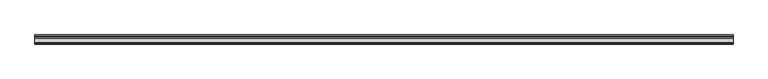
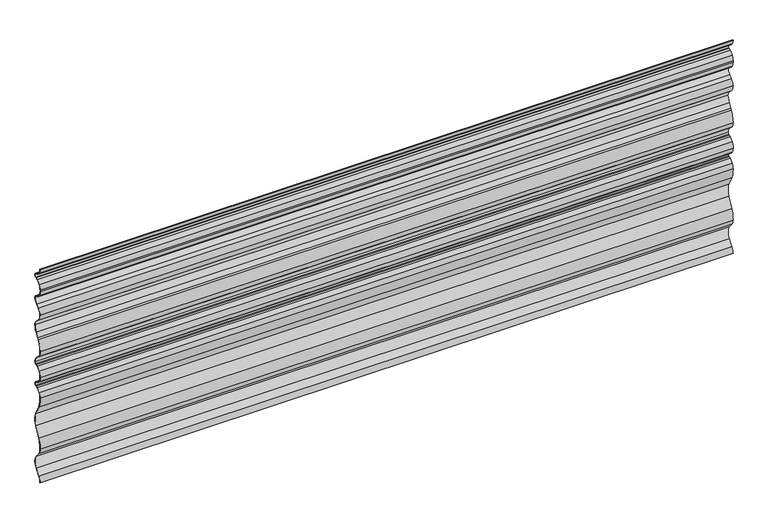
"""IFC4 building model written with IfcOpenShell, lengths in millimetres: plate geometry, Ritmica Horizontal 928 : Ritmica Horizontal 928."""

from ifc_helpers import new_model, si_unit, frame, origin, place, context, project, spatial, polyline, circle_curve, source, transform, mapped, element, save
from ifc_brep_helpers import plane_surface, cylinder_surface, revolved_surface, advanced_brep


def plate_95de40c8(model_context):
    return source(origin(), model_context, "Body", "AdvancedBrep", [
        advanced_brep(
        [(-1424.5, 6.5092615, 908.0620129), (-1424.5, 21.2621067, 895.6153968), (-1424.5, 28.45755, 892.7364297), (-1424.5, 31.9226364, 891.0770661), (-1424.5, 31.9284533, 875.0954695), (-1424.5, 28.4645758, 873.4335839), (-1424.5, 21.2712303, 870.5493796), (-1424.5, 6.5274495, 858.0920274), (-1424.5, 0.7421798, 836.9983174), (-1424.5, 0.7421798, 831.6596456), (-1424.5, 6.5447465, 810.5701527), (-1424.5, 21.2975918, 798.1235366), (-1424.5, 28.493035, 795.2445695), (-1424.5, 31.9581214, 793.5852059), (-1424.5, 36.9921573, 785.5962388), (-1424.5, 24.9656186, 760.6206134), (-1424.5, 12.9828956, 751.0704574), (-1424.5, 1.0048783, 728.5919745), (-1424.5, 13.0090533, 701.127971), (-1424.5, 24.9992939, 690.0241978), (-1424.5, 37.0440106, 665.0573339), (-1424.5, 28.6299997, 638.3240963), (-1424.5, 17.4991449, 620.9910926), (-1424.5, 13.1043036, 613.5575548), (-1424.5, 0.921776, 569.3793833), (-1424.5, 12.9259511, 541.9153798), (-1424.5, 24.9161915, 530.8116067), (-1424.5, 36.9609087, 505.8415328), (-1424.5, 31.9326896, 497.8521133), (-1424.5, 28.4688119, 496.1902275), (-1424.5, 21.2754341, 493.3060102), (-1424.5, 6.5316868, 480.8486726), (-1424.5, 0.8337564, 457.0856569), (-1424.5, 6.3430179, 437.5469103), (-1424.5, 21.0958632, 425.1002943), (-1424.5, 28.2913064, 422.2213272), (-1424.5, 31.7563928, 420.5619636), (-1424.5, 31.7622098, 404.580367), (-1424.5, 28.2983323, 402.9184814), (-1424.5, 21.1049867, 400.034277), (-1424.5, 6.361206, 387.5769248), (-1424.5, 0.8661693, 368.0341733), (-1424.5, 10.0476711, 324.2892209), (-1424.5, 30.4443377, 283.7581494), (-1424.5, 30.4639577, 229.8542794), (-1424.5, 10.0968014, 189.3083707), (-1424.5, 0.9471466, 145.5567461), (-1424.5, 9.5590077, 121.7925982), (-1424.5, 28.254799, 99.3683726), (-1424.5, 28.274038, 46.5109184), (-1424.5, 9.5945757, 23.7707747), (-1424.5, 1.0000163, 0.0), (-1424.5, 1.63e-05, 0.0), (-1424.5, 8.826039, 24.4105804), (-1424.5, 27.4885473, 47.1303588), (-1424.5, 27.4697594, 98.7483605), (-1424.5, 8.790937, 121.1522332), (-1424.5, -0.0528427, 145.5386154), (-1424.5, 9.1993025, 189.7494732), (-1424.5, 29.5703625, 230.3031531), (-1424.5, 29.5510695, 283.3086253), (-1424.5, 9.1504935, 323.8474651), (-1424.5, -0.133833, 368.0515751), (-1424.5, 5.5079347, 388.0983921), (-1424.5, 20.7330524, 400.9625361), (-1424.5, 27.895533, 403.834365), (-1424.5, 31.3296428, 405.4819688), (-1424.5, 31.3244823, 419.6600471), (-1424.5, 27.889174, 421.3051505), (-1424.5, 20.7246046, 424.1717647), (-1424.5, 5.4901265, 437.024822), (-1424.5, -0.1662181, 457.0529178), (-1424.5, 5.6750593, 481.3646468), (-1424.5, 20.9034647, 494.2342551), (-1424.5, 28.0660127, 497.1061111), (-1424.5, 31.5001226, 498.7537151), (-1424.5, 35.9609087, 505.841531), (-1424.5, 24.2645169, 530.052163), (-1424.5, 12.2464871, 541.1816709), (-1424.5, -0.0782183, 569.3680226), (-1424.5, 12.2502128, 614.0778463), (-1424.5, 16.6477304, 621.5159109), (-1424.5, 27.7982686, 638.8795656), (-1424.5, 36.04401, 665.0587755), (-1424.5, 24.3475224, 689.2648438), (-1424.5, 12.3295893, 700.3942621), (-1424.5, 0.0048783, 728.5916105), (-1424.5, 12.391292, 751.8777021), (-1424.5, 24.342358, 761.4026277), (-1424.5, 35.9921573, 785.5958749), (-1424.5, 31.5262109, 792.6832895), (-1424.5, 28.0909026, 794.3283929), (-1424.5, 20.9248539, 797.1955989), (-1424.5, 5.6893168, 810.0521734), (-1424.5, -0.2558769, 831.6592816), (-1424.5, -0.2578202, 836.9981365), (-1424.5, 5.6708241, 858.6080051), (-1424.5, 20.8992959, 871.4776387), (-1424.5, 28.0617766, 874.3494676), (-1424.5, 31.4958863, 875.9970713), (-1424.5, 31.4907258, 890.1751497), (-1424.5, 28.0554176, 891.8202531), (-1424.5, 20.8908482, 894.6868673), (-1424.5, 5.6563701, 907.5399245), (-1424.5, 0.0, 927.600395), (-1424.5, 1.0000001, 927.600395), (1424.5, 6.5092615, 908.0620129), (1424.5, 1.0000001, 927.600395), (1424.5, 0.0, 927.600395), (1424.5, 5.6563701, 907.5399245), (1424.5, 20.8908482, 894.6868673), (1424.5, 28.0554176, 891.8202531), (1424.5, 31.4907258, 890.1751497), (1424.5, 31.4958863, 875.9970713), (1424.5, 28.0617766, 874.3494676), (1424.5, 20.8992959, 871.4776387), (1424.5, 5.6708241, 858.6080051), (1424.5, -0.2578202, 836.9981365), (1424.5, -0.2578202, 831.6596456), (1424.5, 5.6893168, 810.0521734), (1424.5, 20.9248539, 797.1955989), (1424.5, 28.0909026, 794.3283929), (1424.5, 31.5262109, 792.6832895), (1424.5, 35.9921573, 785.5958749), (1424.5, 24.342358, 761.4026277), (1424.5, 12.391292, 751.8777021), (1424.5, 0.0048783, 728.5916105), (1424.5, 12.3295893, 700.3942621), (1424.5, 24.3475224, 689.2648438), (1424.5, 36.04401, 665.0587755), (1424.5, 27.7982686, 638.8795656), (1424.5, 16.6477304, 621.5159109), (1424.5, 12.2502128, 614.0778463), (1424.5, -0.0782183, 569.3680226), (1424.5, 12.2464871, 541.1816709), (1424.5, 24.2645169, 530.052163), (1424.5, 35.9609087, 505.841531), (1424.5, 31.5001226, 498.7537151), (1424.5, 28.0660127, 497.1061111), (1424.5, 20.9034647, 494.2342551), (1424.5, 5.6750593, 481.3646468), (1424.5, -0.1662181, 457.0529178), (1424.5, 5.4901265, 437.024822), (1424.5, 20.7246046, 424.1717647), (1424.5, 27.889174, 421.3051505), (1424.5, 31.3244823, 419.6600471), (1424.5, 31.3296428, 405.4819688), (1424.5, 27.895533, 403.834365), (1424.5, 20.7330524, 400.9625361), (1424.5, 5.5079347, 388.0983921), (1424.5, -0.133833, 368.0515751), (1424.5, 9.1504935, 323.8474651), (1424.5, 29.5510695, 283.3086253), (1424.5, 29.5703625, 230.3031531), (1424.5, 9.1993025, 189.7494732), (1424.5, -0.0528427, 145.5386154), (1424.5, 8.790937, 121.1522332), (1424.5, 27.4697594, 98.7483605), (1424.5, 27.4885473, 47.1303588), (1424.5, 8.826039, 24.4105804), (1424.5, 1.63e-05, 0.0), (1424.5, 1.0000163, 0.0), (1424.5, 9.5945757, 23.7707747), (1424.5, 28.274038, 46.5109184), (1424.5, 28.254799, 99.3683726), (1424.5, 9.5590077, 121.7925982), (1424.5, 0.9471466, 145.5567461), (1424.5, 10.0968014, 189.3083707), (1424.5, 30.4639577, 229.8542794), (1424.5, 30.4443377, 283.7581494), (1424.5, 10.0476711, 324.2892209), (1424.5, 0.8661693, 368.0341733), (1424.5, 6.361206, 387.5769248), (1424.5, 21.1049867, 400.034277), (1424.5, 28.2983323, 402.9184814), (1424.5, 31.7622098, 404.580367), (1424.5, 31.7563928, 420.5619636), (1424.5, 28.2913064, 422.2213272), (1424.5, 21.0958632, 425.1002943), (1424.5, 6.3430179, 437.5469103), (1424.5, 0.8337564, 457.0856569), (1424.5, 6.5316868, 480.8486726), (1424.5, 21.2754341, 493.3060102), (1424.5, 28.4688119, 496.1902275), (1424.5, 31.9326896, 497.8521133), (1424.5, 36.9609087, 505.8415328), (1424.5, 24.9161915, 530.8116067), (1424.5, 12.9259511, 541.9153798), (1424.5, 0.921776, 569.3793833), (1424.5, 13.1043036, 613.5575548), (1424.5, 17.4991449, 620.9910926), (1424.5, 28.6299997, 638.3240963), (1424.5, 37.0440106, 665.0573339), (1424.5, 24.9992939, 690.0241978), (1424.5, 13.0090533, 701.127971), (1424.5, 1.0048783, 728.5919745), (1424.5, 12.9828956, 751.0704574), (1424.5, 24.9656186, 760.6206134), (1424.5, 36.9921573, 785.5962388), (1424.5, 31.9581214, 793.5852059), (1424.5, 28.493035, 795.2445695), (1424.5, 21.2975918, 798.1235366), (1424.5, 6.5447465, 810.5701527), (1424.5, 0.744123, 831.6596456), (1424.5, 0.7421798, 836.9983174), (1424.5, 6.5274495, 858.0920274), (1424.5, 21.2712303, 870.5493796), (1424.5, 28.4645758, 873.4335839), (1424.5, 31.9284533, 875.0954695), (1424.5, 31.9226364, 891.0770661), (1424.5, 28.45755, 892.7364297), (1424.5, 21.2621067, 895.6153968)],
        [
            (0, 1, circle_curve(frame((-1424.5, 32.6219637, 924.0466233), z_axis=(1.0, 0.0, 0.0), x_axis=(0.0, 0.0, 1.0)), 30.6166783)),
            (1, 2),
            (2, 3),
            (3, 4, circle_curve(frame((-1424.5, 28.0953282, 883.0848737), z_axis=(-1.0, 0.0, 0.0), x_axis=(0.0, 0.0, 1.0)), 8.8613445)),
            (4, 5),
            (5, 6),
            (6, 7, circle_curve(frame((-1424.5, 32.651781, 842.1264302), z_axis=(1.0, 0.0, 0.0), x_axis=(0.0, 0.0, 1.0)), 30.6166783)),
            (7, 8, circle_curve(frame((-1424.5, 42.034972, 837.0133472), z_axis=(1.0, 0.0, 0.0), x_axis=(0.0, 0.0, 1.0)), 41.2927949)),
            (8, 9),
            (9, 10, circle_curve(frame((-1424.5, 42.0369151, 831.6746753), z_axis=(1.0, 0.0, 0.0), x_axis=(0.0, 0.0, 1.0)), 41.2927949)),
            (10, 11, circle_curve(frame((-1424.5, 32.8606059, 826.7955631), z_axis=(1.0, 0.0, 0.0), x_axis=(0.0, 0.0, 1.0)), 30.9158276)),
            (11, 12),
            (12, 13),
            (13, 14, circle_curve(frame((-1424.5, 28.1308133, 785.5930135), z_axis=(-1.0, 0.0, 0.0), x_axis=(0.0, 0.0, 1.0)), 8.8613445)),
            (14, 15, circle_curve(frame((-1424.5, 5.0694602, 785.5846196), z_axis=(-1.0, 0.0, 0.0), x_axis=(0.0, 0.0, 1.0)), 31.9226992)),
            (15, 16),
            (16, 17, circle_curve(frame((-1424.5, 28.0674647, 728.6018247), z_axis=(1.0, 0.0, 0.0), x_axis=(0.0, 0.0, 1.0)), 27.0625882)),
            (17, 18, circle_curve(frame((-1424.5, 38.4552002, 728.6056057), z_axis=(1.0, 0.0, 0.0), x_axis=(0.0, 0.0, 1.0)), 37.4503244)),
            (18, 19),
            (19, 20, circle_curve(frame((-1424.5, 5.1213136, 665.0457146), z_axis=(-1.0, 0.0, 0.0), x_axis=(0.0, 0.0, 1.0)), 31.9226992)),
            (20, 21, circle_curve(frame((-1424.5, -10.1198118, 665.2109304), z_axis=(-1.0, 0.0, 0.0), x_axis=(0.0, 0.0, 1.0)), 47.1640725)),
            (21, 22),
            (22, 23),
            (23, 24, circle_curve(frame((-1424.5, 80.6713796, 571.1565204), z_axis=(1.0, 0.0, 0.0), x_axis=(0.0, 0.0, 1.0)), 79.769402)),
            (24, 25, circle_curve(frame((-1424.5, 38.372098, 569.3930144), z_axis=(1.0, 0.0, 0.0), x_axis=(0.0, 0.0, 1.0)), 37.4503244)),
            (25, 26),
            (26, 27, circle_curve(frame((-1424.5, 5.0555271, 505.8414768), z_axis=(-1.0, 0.0, 0.0), x_axis=(0.0, 0.0, 1.0)), 31.9053816)),
            (27, 28, circle_curve(frame((-1424.5, 28.0995643, 505.8415173), z_axis=(-1.0, 0.0, 0.0), x_axis=(0.0, 0.0, 1.0)), 8.8613444)),
            (28, 29),
            (29, 30),
            (30, 31, circle_curve(frame((-1424.5, 32.6560172, 464.8830737), z_axis=(1.0, 0.0, 0.0), x_axis=(0.0, 0.0, 1.0)), 30.6166783)),
            (31, 32, circle_curve(frame((-1424.5, 42.0392082, 459.7699907), z_axis=(1.0, 0.0, 0.0), x_axis=(0.0, 0.0, 1.0)), 41.2927948)),
            (32, 33, circle_curve(frame((-1424.5, 38.2840783, 457.0992876), z_axis=(1.0, 0.0, 0.0), x_axis=(0.0, 0.0, 1.0)), 37.4503244)),
            (33, 34, circle_curve(frame((-1424.5, 32.4557202, 453.5315208), z_axis=(1.0, 0.0, 0.0), x_axis=(0.0, 0.0, 1.0)), 30.6166783)),
            (34, 35),
            (35, 36),
            (36, 37, circle_curve(frame((-1424.5, 27.9290847, 412.5697711), z_axis=(-1.0, 0.0, 0.0), x_axis=(0.0, 0.0, 1.0)), 8.8613445)),
            (37, 38),
            (38, 39),
            (39, 40, circle_curve(frame((-1424.5, 32.4855375, 371.6113276), z_axis=(1.0, 0.0, 0.0), x_axis=(0.0, 0.0, 1.0)), 30.6166783)),
            (40, 41, circle_curve(frame((-1424.5, 38.3164913, 368.0478045), z_axis=(1.0, 0.0, 0.0), x_axis=(0.0, 0.0, 1.0)), 37.4503244)),
            (41, 42, circle_curve(frame((-1424.5, 94.1023268, 364.7672254), z_axis=(1.0, 0.0, 0.0), x_axis=(0.0, 0.0, 1.0)), 93.293376)),
            (42, 43),
            (43, 44, circle_curve(frame((-1424.5, -23.1517542, 256.7867029), z_axis=(-1.0, 0.0, 0.0), x_axis=(0.0, 0.0, 1.0)), 60.0)),
            (44, 45),
            (45, 46, circle_curve(frame((-1424.5, 94.1809012, 148.8915653), z_axis=(1.0, 0.0, 0.0), x_axis=(0.0, 0.0, 1.0)), 93.293376)),
            (46, 47, circle_curve(frame((-1424.5, 38.0785645, 145.5702612), z_axis=(1.0, 0.0, 0.0), x_axis=(0.0, 0.0, 1.0)), 37.1314203)),
            (47, 48),
            (48, 49, circle_curve(frame((-1424.5, -7.0897542, 72.9267773), z_axis=(-1.0, 0.0, 0.0), x_axis=(0.0, 0.0, 1.0)), 44.1406321)),
            (49, 50),
            (50, 51, circle_curve(frame((-1424.5, 38.131434, 0.0138791), z_axis=(1.0, 0.0, 0.0), x_axis=(0.0, 0.0, 1.0)), 37.1314203)),
            (51, 52),
            (52, 53, circle_curve(frame((-1424.5, 38.131434, 0.0138791), z_axis=(-1.0, 0.0, 0.0), x_axis=(0.0, 0.0, 1.0)), 38.1314203)),
            (53, 54),
            (54, 55, circle_curve(frame((-1424.5, -7.0897542, 72.9267773), z_axis=(1.0, 0.0, 0.0), x_axis=(0.0, 0.0, 1.0)), 43.1406321)),
            (55, 56),
            (56, 57, circle_curve(frame((-1424.5, 38.0785645, 145.5702612), z_axis=(-1.0, 0.0, 0.0), x_axis=(0.0, 0.0, 1.0)), 38.1314203)),
            (57, 58, circle_curve(frame((-1424.5, 94.1809012, 148.8915653), z_axis=(-1.0, 0.0, 0.0), x_axis=(0.0, 0.0, 1.0)), 94.293376)),
            (58, 59),
            (59, 60, circle_curve(frame((-1424.5, -23.1517542, 256.7867029), z_axis=(1.0, 0.0, 0.0), x_axis=(0.0, 0.0, 1.0)), 59.0)),
            (60, 61),
            (61, 62, circle_curve(frame((-1424.5, 94.1023268, 364.7672254), z_axis=(-1.0, 0.0, 0.0), x_axis=(0.0, 0.0, 1.0)), 94.293376)),
            (62, 63, circle_curve(frame((-1424.5, 38.3164913, 368.0478045), z_axis=(-1.0, 0.0, 0.0), x_axis=(0.0, 0.0, 1.0)), 38.4503244)),
            (63, 64, circle_curve(frame((-1424.5, 32.4855375, 371.6113276), z_axis=(-1.0, 0.0, 0.0), x_axis=(0.0, 0.0, 1.0)), 31.6166783)),
            (64, 65),
            (65, 66),
            (66, 67, circle_curve(frame((-1424.5, 27.9290847, 412.5697711), z_axis=(1.0, 0.0, 0.0), x_axis=(0.0, 0.0, 1.0)), 7.8613445)),
            (67, 68),
            (68, 69),
            (69, 70, circle_curve(frame((-1424.5, 32.4557202, 453.5315208), z_axis=(-1.0, 0.0, 0.0), x_axis=(0.0, 0.0, 1.0)), 31.6166783)),
            (70, 71, circle_curve(frame((-1424.5, 38.2840783, 457.0992876), z_axis=(-1.0, 0.0, 0.0), x_axis=(0.0, 0.0, 1.0)), 38.4503244)),
            (71, 72, circle_curve(frame((-1424.5, 42.0392082, 459.7699907), z_axis=(-1.0, 0.0, 0.0), x_axis=(0.0, 0.0, 1.0)), 42.2927948)),
            (72, 73, circle_curve(frame((-1424.5, 32.6560172, 464.8830737), z_axis=(-1.0, 0.0, 0.0), x_axis=(0.0, 0.0, 1.0)), 31.6166782)),
            (73, 74),
            (74, 75),
            (75, 76, circle_curve(frame((-1424.5, 28.0995643, 505.8415173), z_axis=(1.0, 0.0, 0.0), x_axis=(0.0, 0.0, 1.0)), 7.8613444)),
            (76, 77, circle_curve(frame((-1424.5, 5.0555271, 505.8414768), z_axis=(1.0, 0.0, 0.0), x_axis=(0.0, 0.0, 1.0)), 30.9053816)),
            (77, 78),
            (78, 79, circle_curve(frame((-1424.5, 38.372098, 569.3930144), z_axis=(-1.0, 0.0, 0.0), x_axis=(0.0, 0.0, 1.0)), 38.4503244)),
            (79, 80, circle_curve(frame((-1424.5, 80.6713796, 571.1565204), z_axis=(-1.0, 0.0, 0.0), x_axis=(0.0, 0.0, 1.0)), 80.769402)),
            (80, 81),
            (81, 82),
            (82, 83, circle_curve(frame((-1424.5, -10.1198118, 665.2109304), z_axis=(1.0, 0.0, 0.0), x_axis=(0.0, 0.0, 1.0)), 46.1640725)),
            (83, 84, circle_curve(frame((-1424.5, 5.1213136, 665.0457146), z_axis=(1.0, 0.0, 0.0), x_axis=(0.0, 0.0, 1.0)), 30.9226992)),
            (84, 85),
            (85, 86, circle_curve(frame((-1424.5, 38.4552002, 728.6056057), z_axis=(-1.0, 0.0, 0.0), x_axis=(0.0, 0.0, 1.0)), 38.4503244)),
            (86, 87, circle_curve(frame((-1424.5, 28.0674647, 728.6018247), z_axis=(-1.0, 0.0, 0.0), x_axis=(0.0, 0.0, 1.0)), 28.0625882)),
            (87, 88),
            (88, 89, circle_curve(frame((-1424.5, 5.0694602, 785.5846196), z_axis=(1.0, 0.0, 0.0), x_axis=(0.0, 0.0, 1.0)), 30.9226992)),
            (89, 90, circle_curve(frame((-1424.5, 28.1308133, 785.5930135), z_axis=(1.0, 0.0, 0.0), x_axis=(0.0, 0.0, 1.0)), 7.8613445)),
            (90, 91),
            (91, 92),
            (92, 93, circle_curve(frame((-1424.5, 32.8606059, 826.7955631), z_axis=(-1.0, 0.0, 0.0), x_axis=(0.0, 0.0, 1.0)), 31.9158276)),
            (93, 94, circle_curve(frame((-1424.5, 42.0369151, 831.6746753), z_axis=(-1.0, 0.0, 0.0), x_axis=(0.0, 0.0, 1.0)), 42.2927949)),
            (94, 95),
            (95, 96, circle_curve(frame((-1424.5, 42.034972, 837.0133472), z_axis=(-1.0, 0.0, 0.0), x_axis=(0.0, 0.0, 1.0)), 42.2927949)),
            (96, 97, circle_curve(frame((-1424.5, 32.651781, 842.1264302), z_axis=(-1.0, 0.0, 0.0), x_axis=(0.0, 0.0, 1.0)), 31.6166783)),
            (97, 98),
            (98, 99),
            (99, 100, circle_curve(frame((-1424.5, 28.0953282, 883.0848737), z_axis=(1.0, 0.0, 0.0), x_axis=(0.0, 0.0, 1.0)), 7.8613445)),
            (100, 101),
            (101, 102),
            (102, 103, circle_curve(frame((-1424.5, 32.6219637, 924.0466233), z_axis=(-1.0, 0.0, 0.0), x_axis=(0.0, 0.0, 1.0)), 31.6166783)),
            (103, 104, circle_curve(frame((-1424.5, 38.4503219, 927.6143902), z_axis=(-1.0, 0.0, 0.0), x_axis=(0.0, 0.0, 1.0)), 38.4503244)),
            (104, 105),
            (105, 0, circle_curve(frame((-1424.5, 38.4503219, 927.6143902), z_axis=(1.0, 0.0, 0.0), x_axis=(0.0, 0.0, 1.0)), 37.4503244)),
            (106, 107, circle_curve(frame((1424.5, 38.4503219, 927.6143902), z_axis=(-1.0, 0.0, 0.0), x_axis=(0.0, 0.0, 1.0)), 37.4503244)),
            (107, 108),
            (108, 109, circle_curve(frame((1424.5, 38.4503219, 927.6143902), z_axis=(1.0, 0.0, 0.0), x_axis=(0.0, 0.0, 1.0)), 38.4503244)),
            (109, 110, circle_curve(frame((1424.5, 32.6219637, 924.0466233), z_axis=(1.0, 0.0, 0.0), x_axis=(0.0, 0.0, 1.0)), 31.6166783)),
            (110, 111),
            (111, 112),
            (112, 113, circle_curve(frame((1424.5, 28.0953282, 883.0848737), z_axis=(-1.0, 0.0, 0.0), x_axis=(0.0, 0.0, 1.0)), 7.8613445)),
            (113, 114),
            (114, 115),
            (115, 116, circle_curve(frame((1424.5, 32.651781, 842.1264302), z_axis=(1.0, 0.0, 0.0), x_axis=(0.0, 0.0, 1.0)), 31.6166783)),
            (116, 117, circle_curve(frame((1424.5, 42.034972, 837.0133472), z_axis=(1.0, 0.0, 0.0), x_axis=(0.0, 0.0, 1.0)), 42.2927949)),
            (117, 118),
            (118, 119, circle_curve(frame((1424.5, 42.0369151, 831.6746753), z_axis=(1.0, 0.0, 0.0), x_axis=(0.0, 0.0, 1.0)), 42.2927949)),
            (119, 120, circle_curve(frame((1424.5, 32.8606059, 826.7955631), z_axis=(1.0, 0.0, 0.0), x_axis=(0.0, 0.0, 1.0)), 31.9158276)),
            (120, 121),
            (121, 122),
            (122, 123, circle_curve(frame((1424.5, 28.1308133, 785.5930135), z_axis=(-1.0, 0.0, 0.0), x_axis=(0.0, 0.0, 1.0)), 7.8613445)),
            (123, 124, circle_curve(frame((1424.5, 5.0694602, 785.5846196), z_axis=(-1.0, 0.0, 0.0), x_axis=(0.0, 0.0, 1.0)), 30.9226992)),
            (124, 125),
            (125, 126, circle_curve(frame((1424.5, 28.0674647, 728.6018247), z_axis=(1.0, 0.0, 0.0), x_axis=(0.0, 0.0, 1.0)), 28.0625882)),
            (126, 127, circle_curve(frame((1424.5, 38.4552002, 728.6056057), z_axis=(1.0, 0.0, 0.0), x_axis=(0.0, 0.0, 1.0)), 38.4503244)),
            (127, 128),
            (128, 129, circle_curve(frame((1424.5, 5.1213136, 665.0457146), z_axis=(-1.0, 0.0, 0.0), x_axis=(0.0, 0.0, 1.0)), 30.9226992)),
            (129, 130, circle_curve(frame((1424.5, -10.1198118, 665.2109304), z_axis=(-1.0, 0.0, 0.0), x_axis=(0.0, 0.0, 1.0)), 46.1640725)),
            (130, 131),
            (131, 132),
            (132, 133, circle_curve(frame((1424.5, 80.6713796, 571.1565204), z_axis=(1.0, 0.0, 0.0), x_axis=(0.0, 0.0, 1.0)), 80.769402)),
            (133, 134, circle_curve(frame((1424.5, 38.372098, 569.3930144), z_axis=(1.0, 0.0, 0.0), x_axis=(0.0, 0.0, 1.0)), 38.4503244)),
            (134, 135),
            (135, 136, circle_curve(frame((1424.5, 5.0555271, 505.8414768), z_axis=(-1.0, 0.0, 0.0), x_axis=(0.0, 0.0, 1.0)), 30.9053816)),
            (136, 137, circle_curve(frame((1424.5, 28.0995643, 505.8415173), z_axis=(-1.0, 0.0, 0.0), x_axis=(0.0, 0.0, 1.0)), 7.8613444)),
            (137, 138),
            (138, 139),
            (139, 140, circle_curve(frame((1424.5, 32.6560172, 464.8830737), z_axis=(1.0, 0.0, 0.0), x_axis=(0.0, 0.0, 1.0)), 31.6166782)),
            (140, 141, circle_curve(frame((1424.5, 42.0392082, 459.7699907), z_axis=(1.0, 0.0, 0.0), x_axis=(0.0, 0.0, 1.0)), 42.2927948)),
            (141, 142, circle_curve(frame((1424.5, 38.2840783, 457.0992876), z_axis=(1.0, 0.0, 0.0), x_axis=(0.0, 0.0, 1.0)), 38.4503244)),
            (142, 143, circle_curve(frame((1424.5, 32.4557202, 453.5315208), z_axis=(1.0, 0.0, 0.0), x_axis=(0.0, 0.0, 1.0)), 31.6166783)),
            (143, 144),
            (144, 145),
            (145, 146, circle_curve(frame((1424.5, 27.9290847, 412.5697711), z_axis=(-1.0, 0.0, 0.0), x_axis=(0.0, 0.0, 1.0)), 7.8613445)),
            (146, 147),
            (147, 148),
            (148, 149, circle_curve(frame((1424.5, 32.4855375, 371.6113276), z_axis=(1.0, 0.0, 0.0), x_axis=(0.0, 0.0, 1.0)), 31.6166783)),
            (149, 150, circle_curve(frame((1424.5, 38.3164913, 368.0478045), z_axis=(1.0, 0.0, 0.0), x_axis=(0.0, 0.0, 1.0)), 38.4503244)),
            (150, 151, circle_curve(frame((1424.5, 94.1023268, 364.7672254), z_axis=(1.0, 0.0, 0.0), x_axis=(0.0, 0.0, 1.0)), 94.293376)),
            (151, 152),
            (152, 153, circle_curve(frame((1424.5, -23.1517542, 256.7867029), z_axis=(-1.0, 0.0, 0.0), x_axis=(0.0, 0.0, 1.0)), 59.0)),
            (153, 154),
            (154, 155, circle_curve(frame((1424.5, 94.1809012, 148.8915653), z_axis=(1.0, 0.0, 0.0), x_axis=(0.0, 0.0, 1.0)), 94.293376)),
            (155, 156, circle_curve(frame((1424.5, 38.0785645, 145.5702612), z_axis=(1.0, 0.0, 0.0), x_axis=(0.0, 0.0, 1.0)), 38.1314203)),
            (156, 157),
            (157, 158, circle_curve(frame((1424.5, -7.0897542, 72.9267773), z_axis=(-1.0, 0.0, 0.0), x_axis=(0.0, 0.0, 1.0)), 43.1406321)),
            (158, 159),
            (159, 160, circle_curve(frame((1424.5, 38.131434, 0.0138791), z_axis=(1.0, 0.0, 0.0), x_axis=(0.0, 0.0, 1.0)), 38.1314203)),
            (160, 161),
            (161, 162, circle_curve(frame((1424.5, 38.131434, 0.0138791), z_axis=(-1.0, 0.0, 0.0), x_axis=(0.0, 0.0, 1.0)), 37.1314203)),
            (162, 163),
            (163, 164, circle_curve(frame((1424.5, -7.0897542, 72.9267773), z_axis=(1.0, 0.0, 0.0), x_axis=(0.0, 0.0, 1.0)), 44.1406321)),
            (164, 165),
            (165, 166, circle_curve(frame((1424.5, 38.0785645, 145.5702612), z_axis=(-1.0, 0.0, 0.0), x_axis=(0.0, 0.0, 1.0)), 37.1314203)),
            (166, 167, circle_curve(frame((1424.5, 94.1809012, 148.8915653), z_axis=(-1.0, 0.0, 0.0), x_axis=(0.0, 0.0, 1.0)), 93.293376)),
            (167, 168),
            (168, 169, circle_curve(frame((1424.5, -23.1517542, 256.7867029), z_axis=(1.0, 0.0, 0.0), x_axis=(0.0, 0.0, 1.0)), 60.0)),
            (169, 170),
            (170, 171, circle_curve(frame((1424.5, 94.1023268, 364.7672254), z_axis=(-1.0, 0.0, 0.0), x_axis=(0.0, 0.0, 1.0)), 93.293376)),
            (171, 172, circle_curve(frame((1424.5, 38.3164913, 368.0478045), z_axis=(-1.0, 0.0, 0.0), x_axis=(0.0, 0.0, 1.0)), 37.4503244)),
            (172, 173, circle_curve(frame((1424.5, 32.4855375, 371.6113276), z_axis=(-1.0, 0.0, 0.0), x_axis=(0.0, 0.0, 1.0)), 30.6166783)),
            (173, 174),
            (174, 175),
            (175, 176, circle_curve(frame((1424.5, 27.9290847, 412.5697711), z_axis=(1.0, 0.0, 0.0), x_axis=(0.0, 0.0, 1.0)), 8.8613445)),
            (176, 177),
            (177, 178),
            (178, 179, circle_curve(frame((1424.5, 32.4557202, 453.5315208), z_axis=(-1.0, 0.0, 0.0), x_axis=(0.0, 0.0, 1.0)), 30.6166783)),
            (179, 180, circle_curve(frame((1424.5, 38.2840783, 457.0992876), z_axis=(-1.0, 0.0, 0.0), x_axis=(0.0, 0.0, 1.0)), 37.4503244)),
            (180, 181, circle_curve(frame((1424.5, 42.0392082, 459.7699907), z_axis=(-1.0, 0.0, 0.0), x_axis=(0.0, 0.0, 1.0)), 41.2927948)),
            (181, 182, circle_curve(frame((1424.5, 32.6560172, 464.8830737), z_axis=(-1.0, 0.0, 0.0), x_axis=(0.0, 0.0, 1.0)), 30.6166783)),
            (182, 183),
            (183, 184),
            (184, 185, circle_curve(frame((1424.5, 28.0995643, 505.8415173), z_axis=(1.0, 0.0, 0.0), x_axis=(0.0, 0.0, 1.0)), 8.8613444)),
            (185, 186, circle_curve(frame((1424.5, 5.0555271, 505.8414768), z_axis=(1.0, 0.0, 0.0), x_axis=(0.0, 0.0, 1.0)), 31.9053816)),
            (186, 187),
            (187, 188, circle_curve(frame((1424.5, 38.372098, 569.3930144), z_axis=(-1.0, 0.0, 0.0), x_axis=(0.0, 0.0, 1.0)), 37.4503244)),
            (188, 189, circle_curve(frame((1424.5, 80.6713796, 571.1565204), z_axis=(-1.0, 0.0, 0.0), x_axis=(0.0, 0.0, 1.0)), 79.769402)),
            (189, 190),
            (190, 191),
            (191, 192, circle_curve(frame((1424.5, -10.1198118, 665.2109304), z_axis=(1.0, 0.0, 0.0), x_axis=(0.0, 0.0, 1.0)), 47.1640725)),
            (192, 193, circle_curve(frame((1424.5, 5.1213136, 665.0457146), z_axis=(1.0, 0.0, 0.0), x_axis=(0.0, 0.0, 1.0)), 31.9226992)),
            (193, 194),
            (194, 195, circle_curve(frame((1424.5, 38.4552002, 728.6056057), z_axis=(-1.0, 0.0, 0.0), x_axis=(0.0, 0.0, 1.0)), 37.4503244)),
            (195, 196, circle_curve(frame((1424.5, 28.0674647, 728.6018247), z_axis=(-1.0, 0.0, 0.0), x_axis=(0.0, 0.0, 1.0)), 27.0625882)),
            (196, 197),
            (197, 198, circle_curve(frame((1424.5, 5.0694602, 785.5846196), z_axis=(1.0, 0.0, 0.0), x_axis=(0.0, 0.0, 1.0)), 31.9226992)),
            (198, 199, circle_curve(frame((1424.5, 28.1308133, 785.5930135), z_axis=(1.0, 0.0, 0.0), x_axis=(0.0, 0.0, 1.0)), 8.8613445)),
            (199, 200),
            (200, 201),
            (201, 202, circle_curve(frame((1424.5, 32.8606059, 826.7955631), z_axis=(-1.0, 0.0, 0.0), x_axis=(0.0, 0.0, 1.0)), 30.9158276)),
            (202, 203, circle_curve(frame((1424.5, 42.0369151, 831.6746753), z_axis=(-1.0, 0.0, 0.0), x_axis=(0.0, 0.0, 1.0)), 41.2927949)),
            (203, 204),
            (204, 205, circle_curve(frame((1424.5, 42.034972, 837.0133472), z_axis=(-1.0, 0.0, 0.0), x_axis=(0.0, 0.0, 1.0)), 41.2927949)),
            (205, 206, circle_curve(frame((1424.5, 32.651781, 842.1264302), z_axis=(-1.0, 0.0, 0.0), x_axis=(0.0, 0.0, 1.0)), 30.6166783)),
            (206, 207),
            (207, 208),
            (208, 209, circle_curve(frame((1424.5, 28.0953282, 883.0848737), z_axis=(1.0, 0.0, 0.0), x_axis=(0.0, 0.0, 1.0)), 8.8613445)),
            (209, 210),
            (210, 211),
            (211, 106, circle_curve(frame((1424.5, 32.6219637, 924.0466233), z_axis=(-1.0, 0.0, 0.0), x_axis=(0.0, 0.0, 1.0)), 30.6166783)),
            (0, 106),
            (211, 1),
            (210, 2),
            (209, 3),
            (208, 4),
            (207, 5),
            (206, 6),
            (205, 7),
            (204, 8),
            (203, 9),
            (202, 10),
            (201, 11),
            (200, 12),
            (199, 13),
            (198, 14),
            (197, 15),
            (196, 16),
            (195, 17),
            (194, 18),
            (193, 19),
            (192, 20),
            (191, 21),
            (190, 22),
            (189, 23),
            (188, 24),
            (187, 25),
            (186, 26),
            (185, 27),
            (184, 28),
            (183, 29),
            (182, 30),
            (181, 31),
            (180, 32),
            (179, 33),
            (178, 34),
            (177, 35),
            (176, 36),
            (175, 37),
            (174, 38),
            (173, 39),
            (172, 40),
            (171, 41),
            (170, 42),
            (169, 43),
            (168, 44),
            (167, 45),
            (166, 46),
            (165, 47),
            (164, 48),
            (163, 49),
            (162, 50),
            (161, 51),
            (160, 52),
            (159, 53),
            (158, 54),
            (157, 55),
            (156, 56),
            (155, 57),
            (154, 58),
            (153, 59),
            (152, 60),
            (151, 61),
            (150, 62),
            (149, 63),
            (148, 64),
            (147, 65),
            (146, 66),
            (145, 67),
            (144, 68),
            (143, 69),
            (142, 70),
            (141, 71),
            (140, 72),
            (139, 73),
            (138, 74),
            (137, 75),
            (136, 76),
            (135, 77),
            (134, 78),
            (133, 79),
            (132, 80),
            (131, 81),
            (130, 82),
            (129, 83),
            (128, 84),
            (127, 85),
            (126, 86),
            (125, 87),
            (124, 88),
            (123, 89),
            (122, 90),
            (121, 91),
            (120, 92),
            (119, 93),
            (118, 94),
            (117, 95),
            (116, 96),
            (115, 97),
            (114, 98),
            (113, 99),
            (112, 100),
            (111, 101),
            (110, 102),
            (109, 103),
            (108, 104),
            (107, 105),
        ],
        [
            plane_surface(frame((-1424.5, 32.6219637, 954.6633016), z_axis=(-1.0, 0.0, 0.0), x_axis=(0.0, -1.0, 0.0))),
            plane_surface(frame((1424.5, 32.6219637, 954.6633016), z_axis=(1.0, 0.0, 0.0), x_axis=(0.0, 1.0, 0.0))),
            revolved_surface(polyline([(1424.5, 32.6219637, 954.6633016), (-1424.5, 32.6219637, 954.6633016)]), (1424.5, 32.6219637, 924.0466233), (1.0, 0.0, 0.0)),
            plane_surface(frame((-1424.5, 21.2621067, 895.6153968), z_axis=(0.0, 0.3714785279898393, 0.9284415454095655), x_axis=(1.0, 0.0, 0.0))),
            plane_surface(frame((-1424.5, 28.45755, 892.7364297), z_axis=(0.0, 0.43191054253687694, 0.9019164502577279), x_axis=(1.0, 0.0, 0.0))),
            cylinder_surface(frame((1424.5, 28.0953282, 883.0848737), z_axis=(-1.0, 0.0, 0.0), x_axis=(0.0, 0.0, 1.0)), 8.8613445),
            plane_surface(frame((-1424.5, 31.9284533, 875.0954695), z_axis=(0.0, 0.43256698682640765, -0.9016017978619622), x_axis=(1.0, 0.0, 0.0))),
            plane_surface(frame((-1424.5, 28.4645758, 873.4335839), z_axis=(0.0, 0.3721542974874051, -0.928170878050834), x_axis=(1.0, 0.0, 0.0))),
            revolved_surface(polyline([(1424.5, 32.651781, 872.7431085), (-1424.5, 32.651781, 872.7431085)]), (1424.5, 32.651781, 842.1264302), (1.0, 0.0, 0.0)),
            revolved_surface(polyline([(1424.5, 42.034972, 878.3061421), (-1424.5, 42.034972, 878.3061421)]), (1424.5, 42.034972, 837.0133472), (1.0, 0.0, 0.0)),
            plane_surface(frame((-1424.5, 0.7421798, 836.9983174), z_axis=(0.0, 1.0, 0.0), x_axis=(1.0, 0.0, 0.0))),
            revolved_surface(polyline([(1424.5, 42.0369151, 872.9674702), (-1424.5, 42.0369151, 872.9674702)]), (1424.5, 42.0369151, 831.6746753), (1.0, 0.0, 0.0)),
            revolved_surface(polyline([(1424.5, 32.8606059, 857.7113907), (-1424.5, 32.8606059, 857.7113907)]), (1424.5, 32.8606059, 826.7955631), (1.0, 0.0, 0.0)),
            plane_surface(frame((-1424.5, 21.2975918, 798.1235366), z_axis=(0.0, 0.3714785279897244, 0.9284415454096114), x_axis=(1.0, 0.0, 0.0))),
            plane_surface(frame((-1424.5, 28.493035, 795.2445695), z_axis=(0.0, 0.4319105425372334, 0.9019164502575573), x_axis=(1.0, 0.0, 0.0))),
            cylinder_surface(frame((1424.5, 28.1308133, 785.5930135), z_axis=(-1.0, 0.0, 0.0), x_axis=(0.0, 0.0, 1.0)), 8.8613445),
            cylinder_surface(frame((1424.5, 5.0694602, 785.5846196), z_axis=(-1.0, 0.0, 0.0), x_axis=(0.0, 0.0, 1.0)), 31.9226992),
            plane_surface(frame((-1424.5, 24.9656186, 760.6206134), z_axis=(0.0, 0.6232605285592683, -0.7820142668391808), x_axis=(1.0, 0.0, 0.0))),
            revolved_surface(polyline([(1424.5, 28.0674647, 755.6644129), (-1424.5, 28.0674647, 755.6644129)]), (1424.5, 28.0674647, 728.6018247), (1.0, 0.0, 0.0)),
            revolved_surface(polyline([(1424.5, 38.4552002, 766.0559301), (-1424.5, 38.4552002, 766.0559301)]), (1424.5, 38.4552002, 728.6056057), (1.0, 0.0, 0.0)),
            plane_surface(frame((-1424.5, 13.0090533, 701.127971), z_axis=(0.0, 0.6794639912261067, 0.7337088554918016), x_axis=(1.0, 0.0, 0.0))),
            cylinder_surface(frame((1424.5, 5.1213136, 665.0457146), z_axis=(-1.0, 0.0, 0.0), x_axis=(0.0, 0.0, 1.0)), 31.9226992),
            cylinder_surface(frame((1424.5, -10.1198118, 665.2109304), z_axis=(-1.0, 0.0, 0.0), x_axis=(0.0, 0.0, 1.0)), 47.1640725),
            plane_surface(frame((-1424.5, 28.6299997, 638.3240963), z_axis=(0.0, 0.8414387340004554, -0.5403525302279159), x_axis=(1.0, 0.0, 0.0))),
            plane_surface(frame((-1424.5, 17.4991449, 620.9910926), z_axis=(0.0, 0.8608100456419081, -0.5089263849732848), x_axis=(1.0, 0.0, 0.0))),
            revolved_surface(polyline([(1424.5, 80.6713796, 650.9259224), (-1424.5, 80.6713796, 650.9259224)]), (1424.5, 80.6713796, 571.1565204), (1.0, 0.0, 0.0)),
            revolved_surface(polyline([(1424.5, 38.372098, 606.8433388), (-1424.5, 38.372098, 606.8433388)]), (1424.5, 38.372098, 569.3930144), (1.0, 0.0, 0.0)),
            plane_surface(frame((-1424.5, 12.9259511, 541.9153798), z_axis=(0.0, 0.6794639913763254, 0.7337088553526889), x_axis=(1.0, 0.0, 0.0))),
            cylinder_surface(frame((1424.5, 5.0555271, 505.8414768), z_axis=(-1.0, 0.0, 0.0), x_axis=(0.0, 0.0, 1.0)), 31.9053816),
            cylinder_surface(frame((1424.5, 28.0995643, 505.8415173), z_axis=(-1.0, 0.0, 0.0), x_axis=(0.0, 0.0, 1.0)), 8.8613444),
            plane_surface(frame((-1424.5, 31.9326896, 497.8521133), z_axis=(0.0, 0.43256701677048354, -0.9016017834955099), x_axis=(1.0, 0.0, 0.0))),
            plane_surface(frame((-1424.5, 28.4688119, 496.1902275), z_axis=(0.0, 0.37215430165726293, -0.9281708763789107), x_axis=(1.0, 0.0, 0.0))),
            revolved_surface(polyline([(1424.5, 32.6560172, 495.499752), (-1424.5, 32.6560172, 495.499752)]), (1424.5, 32.6560172, 464.8830737), (1.0, 0.0, 0.0)),
            revolved_surface(polyline([(1424.5, 42.0392082, 501.0627855), (-1424.5, 42.0392082, 501.0627855)]), (1424.5, 42.0392082, 459.7699907), (1.0, 0.0, 0.0)),
            revolved_surface(polyline([(1424.5, 38.2840783, 494.549612), (-1424.5, 38.2840783, 494.549612)]), (1424.5, 38.2840783, 457.0992876), (1.0, 0.0, 0.0)),
            revolved_surface(polyline([(1424.5, 32.4557202, 484.1481991), (-1424.5, 32.4557202, 484.1481991)]), (1424.5, 32.4557202, 453.5315208), (1.0, 0.0, 0.0)),
            plane_surface(frame((-1424.5, 21.0958632, 425.1002943), z_axis=(0.0, 0.3714785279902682, 0.9284415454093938), x_axis=(1.0, 0.0, 0.0))),
            plane_surface(frame((-1424.5, 28.2913064, 422.2213272), z_axis=(0.0, 0.43191054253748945, 0.9019164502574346), x_axis=(1.0, 0.0, 0.0))),
            cylinder_surface(frame((1424.5, 27.9290847, 412.5697711), z_axis=(-1.0, 0.0, 0.0), x_axis=(0.0, 0.0, 1.0)), 8.8613445),
            plane_surface(frame((-1424.5, 31.7622098, 404.580367), z_axis=(0.0, 0.432566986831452, -0.901601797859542), x_axis=(1.0, 0.0, 0.0))),
            plane_surface(frame((-1424.5, 28.2983323, 402.9184814), z_axis=(0.0, 0.3721542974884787, -0.9281708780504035), x_axis=(1.0, 0.0, 0.0))),
            revolved_surface(polyline([(1424.5, 32.4855375, 402.22800589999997), (-1424.5, 32.4855375, 402.22800589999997)]), (1424.5, 32.4855375, 371.6113276), (1.0, 0.0, 0.0)),
            revolved_surface(polyline([(1424.5, 38.3164913, 405.4981289), (-1424.5, 38.3164913, 405.4981289)]), (1424.5, 38.3164913, 368.0478045), (1.0, 0.0, 0.0)),
            revolved_surface(polyline([(1424.5, 94.1023268, 458.0606014), (-1424.5, 94.1023268, 458.0606014)]), (1424.5, 94.1023268, 364.7672254), (1.0, 0.0, 0.0)),
            plane_surface(frame((-1424.5, 10.0476711, 324.2892209), z_axis=(0.0, 0.8932681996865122, 0.4495241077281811), x_axis=(1.0, 0.0, 0.0))),
            cylinder_surface(frame((1424.5, -23.1517542, 256.7867029), z_axis=(-1.0, 0.0, 0.0), x_axis=(0.0, 0.0, 1.0)), 60.0),
            plane_surface(frame((-1424.5, 30.4639577, 229.8542794), z_axis=(0.0, 0.8935951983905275, -0.44887372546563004), x_axis=(1.0, 0.0, 0.0))),
            revolved_surface(polyline([(1424.5, 94.1809012, 242.1849413), (-1424.5, 94.1809012, 242.1849413)]), (1424.5, 94.1809012, 148.8915653), (1.0, 0.0, 0.0)),
            revolved_surface(polyline([(1424.5, 38.0785645, 182.7016815), (-1424.5, 38.0785645, 182.7016815)]), (1424.5, 38.0785645, 145.5702612), (1.0, 0.0, 0.0)),
            plane_surface(frame((-1424.5, 9.5590077, 121.7925982), z_axis=(0.0, 0.768070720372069, 0.640365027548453), x_axis=(1.0, 0.0, 0.0))),
            cylinder_surface(frame((1424.5, -7.0897542, 72.9267773), z_axis=(-1.0, 0.0, 0.0), x_axis=(0.0, 0.0, 1.0)), 44.1406321),
            plane_surface(frame((-1424.5, 28.274038, 46.5109184), z_axis=(0.0, 0.7727252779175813, -0.6347406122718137), x_axis=(1.0, 0.0, 0.0))),
            revolved_surface(polyline([(1424.5, 38.131434, 37.1452994), (-1424.5, 38.131434, 37.1452994)]), (1424.5, 38.131434, 0.0138791), (1.0, 0.0, 0.0)),
            plane_surface(frame((-1424.5, 1.0000163, 0.0), z_axis=(0.0, 0.0, -1.0), x_axis=(1.0, 0.0, 0.0))),
            cylinder_surface(frame((1424.5, 38.131434, 0.0138791), z_axis=(-1.0, 0.0, 0.0), x_axis=(0.0, 0.0, 1.0)), 38.1314203),
            plane_surface(frame((-1424.5, 8.826039, 24.4105804), z_axis=(0.0, -0.772729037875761, 0.6347360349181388), x_axis=(1.0, 0.0, 0.0))),
            revolved_surface(polyline([(1424.5, -7.0897542, 116.0674094), (-1424.5, -7.0897542, 116.0674094)]), (1424.5, -7.0897542, 72.9267773), (1.0, 0.0, 0.0)),
            plane_surface(frame((-1424.5, 27.4697594, 98.7483605), z_axis=(0.0, -0.7680707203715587, -0.6403650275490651), x_axis=(1.0, 0.0, 0.0))),
            cylinder_surface(frame((1424.5, 38.0785645, 145.5702612), z_axis=(-1.0, 0.0, 0.0), x_axis=(0.0, 0.0, 1.0)), 38.1314203),
            cylinder_surface(frame((1424.5, 94.1809012, 148.8915653), z_axis=(-1.0, 0.0, 0.0), x_axis=(0.0, 0.0, 1.0)), 94.293376),
            plane_surface(frame((-1424.5, 9.1993025, 189.7494732), z_axis=(0.0, -0.893595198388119, 0.448873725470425), x_axis=(1.0, 0.0, 0.0))),
            revolved_surface(polyline([(1424.5, -23.1517542, 315.7867029), (-1424.5, -23.1517542, 315.7867029)]), (1424.5, -23.1517542, 256.7867029), (1.0, 0.0, 0.0)),
            plane_surface(frame((-1424.5, 29.5510695, 283.3086253), z_axis=(0.0, -0.8932681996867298, -0.4495241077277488), x_axis=(1.0, 0.0, 0.0))),
            cylinder_surface(frame((1424.5, 94.1023268, 364.7672254), z_axis=(-1.0, 0.0, 0.0), x_axis=(0.0, 0.0, 1.0)), 94.293376),
            cylinder_surface(frame((1424.5, 38.3164913, 368.0478045), z_axis=(-1.0, 0.0, 0.0), x_axis=(0.0, 0.0, 1.0)), 38.4503244),
            cylinder_surface(frame((1424.5, 32.4855375, 371.6113276), z_axis=(-1.0, 0.0, 0.0), x_axis=(0.0, 0.0, 1.0)), 31.6166783),
            plane_surface(frame((-1424.5, 20.7330524, 400.9625361), z_axis=(0.0, -0.3721542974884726, 0.9281708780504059), x_axis=(1.0, 0.0, 0.0))),
            plane_surface(frame((-1424.5, 27.895533, 403.834365), z_axis=(0.0, -0.43256698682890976, 0.9016017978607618), x_axis=(1.0, 0.0, 0.0))),
            revolved_surface(polyline([(1424.5, 27.9290847, 420.4311156), (-1424.5, 27.9290847, 420.4311156)]), (1424.5, 27.9290847, 412.5697711), (1.0, 0.0, 0.0)),
            plane_surface(frame((-1424.5, 31.3244823, 419.6600471), z_axis=(0.0, -0.43191054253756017, -0.9019164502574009), x_axis=(1.0, 0.0, 0.0))),
            plane_surface(frame((-1424.5, 27.889174, 421.3051505), z_axis=(0.0, -0.3714785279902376, -0.9284415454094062), x_axis=(1.0, 0.0, 0.0))),
            cylinder_surface(frame((1424.5, 32.4557202, 453.5315208), z_axis=(-1.0, 0.0, 0.0), x_axis=(0.0, 0.0, 1.0)), 31.6166783),
            cylinder_surface(frame((1424.5, 38.2840783, 457.0992876), z_axis=(-1.0, 0.0, 0.0), x_axis=(0.0, 0.0, 1.0)), 38.4503244),
            cylinder_surface(frame((1424.5, 42.0392082, 459.7699907), z_axis=(-1.0, 0.0, 0.0), x_axis=(0.0, 0.0, 1.0)), 42.2927948),
            cylinder_surface(frame((1424.5, 32.6560172, 464.8830737), z_axis=(-1.0, 0.0, 0.0), x_axis=(0.0, 0.0, 1.0)), 31.6166782),
            plane_surface(frame((-1424.5, 20.9034647, 494.2342551), z_axis=(0.0, -0.3721543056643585, 0.9281708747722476), x_axis=(1.0, 0.0, 0.0))),
            plane_surface(frame((-1424.5, 28.0660127, 497.1061111), z_axis=(0.0, -0.43256701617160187, 0.9016017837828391), x_axis=(1.0, 0.0, 0.0))),
            revolved_surface(polyline([(1424.5, 28.0995643, 513.7028617), (-1424.5, 28.0995643, 513.7028617)]), (1424.5, 28.0995643, 505.8415173), (1.0, 0.0, 0.0)),
            revolved_surface(polyline([(1424.5, 5.0555271, 536.7468584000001), (-1424.5, 5.0555271, 536.7468584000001)]), (1424.5, 5.0555271, 505.8414768), (1.0, 0.0, 0.0)),
            plane_surface(frame((-1424.5, 24.2645169, 530.052163), z_axis=(0.0, -0.6794639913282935, -0.7337088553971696), x_axis=(1.0, 0.0, 0.0))),
            cylinder_surface(frame((1424.5, 38.372098, 569.3930144), z_axis=(-1.0, 0.0, 0.0), x_axis=(0.0, 0.0, 1.0)), 38.4503244),
            cylinder_surface(frame((1424.5, 80.6713796, 571.1565204), z_axis=(-1.0, 0.0, 0.0), x_axis=(0.0, 0.0, 1.0)), 80.769402),
            plane_surface(frame((-1424.5, 12.2502128, 614.0778463), z_axis=(0.0, -0.8608100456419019, 0.5089263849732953), x_axis=(1.0, 0.0, 0.0))),
            plane_surface(frame((-1424.5, 16.6477304, 621.5159109), z_axis=(0.0, -0.8414387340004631, 0.5403525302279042), x_axis=(1.0, 0.0, 0.0))),
            revolved_surface(polyline([(1424.5, -10.1198118, 711.3750029), (-1424.5, -10.1198118, 711.3750029)]), (1424.5, -10.1198118, 665.2109304), (1.0, 0.0, 0.0)),
            revolved_surface(polyline([(1424.5, 5.1213136, 695.9684138), (-1424.5, 5.1213136, 695.9684138)]), (1424.5, 5.1213136, 665.0457146), (1.0, 0.0, 0.0)),
            plane_surface(frame((-1424.5, 24.3475224, 689.2648438), z_axis=(0.0, -0.6794639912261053, -0.7337088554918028), x_axis=(1.0, 0.0, 0.0))),
            cylinder_surface(frame((1424.5, 38.4552002, 728.6056057), z_axis=(-1.0, 0.0, 0.0), x_axis=(0.0, 0.0, 1.0)), 38.4503244),
            cylinder_surface(frame((1424.5, 28.0674647, 728.6018247), z_axis=(-1.0, 0.0, 0.0), x_axis=(0.0, 0.0, 1.0)), 28.0625882),
            plane_surface(frame((-1424.5, 12.391292, 751.8777021), z_axis=(0.0, -0.6232605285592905, 0.7820142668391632), x_axis=(1.0, 0.0, 0.0))),
            revolved_surface(polyline([(1424.5, 5.0694602, 816.5073188), (-1424.5, 5.0694602, 816.5073188)]), (1424.5, 5.0694602, 785.5846196), (1.0, 0.0, 0.0)),
            revolved_surface(polyline([(1424.5, 28.1308133, 793.454358), (-1424.5, 28.1308133, 793.454358)]), (1424.5, 28.1308133, 785.5930135), (1.0, 0.0, 0.0)),
            plane_surface(frame((-1424.5, 31.5262109, 792.6832895), z_axis=(0.0, -0.43191054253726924, -0.9019164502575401), x_axis=(1.0, 0.0, 0.0))),
            plane_surface(frame((-1424.5, 28.0909026, 794.3283929), z_axis=(0.0, -0.37147852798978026, -0.9284415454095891), x_axis=(1.0, 0.0, 0.0))),
            cylinder_surface(frame((1424.5, 32.8606059, 826.7955631), z_axis=(-1.0, 0.0, 0.0), x_axis=(0.0, 0.0, 1.0)), 31.9158276),
            cylinder_surface(frame((1424.5, 42.0369151, 831.6746753), z_axis=(-1.0, 0.0, 0.0), x_axis=(0.0, 0.0, 1.0)), 42.2927949),
            plane_surface(frame((-1424.5, -0.2578202, 831.6596456), z_axis=(0.0, -1.0, 0.0), x_axis=(1.0, 0.0, 0.0))),
            cylinder_surface(frame((1424.5, 42.034972, 837.0133472), z_axis=(-1.0, 0.0, 0.0), x_axis=(0.0, 0.0, 1.0)), 42.2927949),
            cylinder_surface(frame((1424.5, 32.651781, 842.1264302), z_axis=(-1.0, 0.0, 0.0), x_axis=(0.0, 0.0, 1.0)), 31.6166783),
            plane_surface(frame((-1424.5, 20.8992959, 871.4776387), z_axis=(0.0, -0.3721542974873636, 0.9281708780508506), x_axis=(1.0, 0.0, 0.0))),
            plane_surface(frame((-1424.5, 28.0617766, 874.3494676), z_axis=(0.0, -0.43256698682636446, 0.9016017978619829), x_axis=(1.0, 0.0, 0.0))),
            revolved_surface(polyline([(1424.5, 28.0953282, 890.9462182), (-1424.5, 28.0953282, 890.9462182)]), (1424.5, 28.0953282, 883.0848737), (1.0, 0.0, 0.0)),
            plane_surface(frame((-1424.5, 31.4907258, 890.1751497), z_axis=(0.0, -0.43191054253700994, -0.9019164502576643), x_axis=(1.0, 0.0, 0.0))),
            plane_surface(frame((-1424.5, 28.0554176, 891.8202531), z_axis=(0.0, -0.37147852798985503, -0.9284415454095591), x_axis=(1.0, 0.0, 0.0))),
            cylinder_surface(frame((1424.5, 32.6219637, 924.0466233), z_axis=(-1.0, 0.0, 0.0), x_axis=(0.0, 0.0, 1.0)), 31.6166783),
            cylinder_surface(frame((1424.5, 38.4503219, 927.6143902), z_axis=(-1.0, 0.0, 0.0), x_axis=(0.0, 0.0, 1.0)), 38.4503244),
            plane_surface(frame((-1424.5, 0.0, 927.600395), z_axis=(0.0, 0.0, 1.0), x_axis=(1.0, 0.0, 0.0))),
            revolved_surface(polyline([(1424.5, 38.4503219, 965.0647146), (-1424.5, 38.4503219, 965.0647146)]), (1424.5, 38.4503219, 927.6143902), (1.0, 0.0, 0.0)),
        ],
        [
            (0, [[1, 2, 3, 4, 5, 6, 7, 8, 9, 10, 11, 12, 13, 14, 15, 16, 17, 18, 19, 20, 21, 22, 23, 24, 25, 26, 27, 28, 29, 30, 31, 32, 33, 34, 35, 36, 37, 38, 39, 40, 41, 42, 43, 44, 45, 46, 47, 48, 49, 50, 51, 52, 53, 54, 55, 56, 57, 58, 59, 60, 61, 62, 63, 64, 65, 66, 67, 68, 69, 70, 71, 72, 73, 74, 75, 76, 77, 78, 79, 80, 81, 82, 83, 84, 85, 86, 87, 88, 89, 90, 91, 92, 93, 94, 95, 96, 97, 98, 99, 100, 101, 102, 103, 104, 105, 106]]),
            (1, [[107, 108, 109, 110, 111, 112, 113, 114, 115, 116, 117, 118, 119, 120, 121, 122, 123, 124, 125, 126, 127, 128, 129, 130, 131, 132, 133, 134, 135, 136, 137, 138, 139, 140, 141, 142, 143, 144, 145, 146, 147, 148, 149, 150, 151, 152, 153, 154, 155, 156, 157, 158, 159, 160, 161, 162, 163, 164, 165, 166, 167, 168, 169, 170, 171, 172, 173, 174, 175, 176, 177, 178, 179, 180, 181, 182, 183, 184, 185, 186, 187, 188, 189, 190, 191, 192, 193, 194, 195, 196, 197, 198, 199, 200, 201, 202, 203, 204, 205, 206, 207, 208, 209, 210, 211, 212]]),
            (2, [[-1, 213, -212, 214]]),
            (3, [[-2, -214, -211, 215]]),
            (4, [[-3, -215, -210, 216]]),
            (5, [[-4, -216, -209, 217]]),
            (6, [[-5, -217, -208, 218]]),
            (7, [[-6, -218, -207, 219]]),
            (8, [[-7, -219, -206, 220]]),
            (9, [[-8, -220, -205, 221]]),
            (10, [[-9, -221, -204, 222]]),
            (11, [[-10, -222, -203, 223]]),
            (12, [[-11, -223, -202, 224]]),
            (13, [[-12, -224, -201, 225]]),
            (14, [[-13, -225, -200, 226]]),
            (15, [[-14, -226, -199, 227]]),
            (16, [[-15, -227, -198, 228]]),
            (17, [[-16, -228, -197, 229]]),
            (18, [[-17, -229, -196, 230]]),
            (19, [[-18, -230, -195, 231]]),
            (20, [[-19, -231, -194, 232]]),
            (21, [[-20, -232, -193, 233]]),
            (22, [[-21, -233, -192, 234]]),
            (23, [[-22, -234, -191, 235]]),
            (24, [[-23, -235, -190, 236]]),
            (25, [[-24, -236, -189, 237]]),
            (26, [[-25, -237, -188, 238]]),
            (27, [[-26, -238, -187, 239]]),
            (28, [[-27, -239, -186, 240]]),
            (29, [[-28, -240, -185, 241]]),
            (30, [[-29, -241, -184, 242]]),
            (31, [[-30, -242, -183, 243]]),
            (32, [[-31, -243, -182, 244]]),
            (33, [[-32, -244, -181, 245]]),
            (34, [[-33, -245, -180, 246]]),
            (35, [[-34, -246, -179, 247]]),
            (36, [[-35, -247, -178, 248]]),
            (37, [[-36, -248, -177, 249]]),
            (38, [[-37, -249, -176, 250]]),
            (39, [[-38, -250, -175, 251]]),
            (40, [[-39, -251, -174, 252]]),
            (41, [[-40, -252, -173, 253]]),
            (42, [[-41, -253, -172, 254]]),
            (43, [[-42, -254, -171, 255]]),
            (44, [[-43, -255, -170, 256]]),
            (45, [[-44, -256, -169, 257]]),
            (46, [[-45, -257, -168, 258]]),
            (47, [[-46, -258, -167, 259]]),
            (48, [[-47, -259, -166, 260]]),
            (49, [[-48, -260, -165, 261]]),
            (50, [[-49, -261, -164, 262]]),
            (51, [[-50, -262, -163, 263]]),
            (52, [[-51, -263, -162, 264]]),
            (53, [[-52, -264, -161, 265]]),
            (54, [[-53, -265, -160, 266]]),
            (55, [[-54, -266, -159, 267]]),
            (56, [[-55, -267, -158, 268]]),
            (57, [[-56, -268, -157, 269]]),
            (58, [[-57, -269, -156, 270]]),
            (59, [[-58, -270, -155, 271]]),
            (60, [[-59, -271, -154, 272]]),
            (61, [[-60, -272, -153, 273]]),
            (62, [[-61, -273, -152, 274]]),
            (63, [[-62, -274, -151, 275]]),
            (64, [[-63, -275, -150, 276]]),
            (65, [[-64, -276, -149, 277]]),
            (66, [[-65, -277, -148, 278]]),
            (67, [[-66, -278, -147, 279]]),
            (68, [[-67, -279, -146, 280]]),
            (69, [[-68, -280, -145, 281]]),
            (70, [[-69, -281, -144, 282]]),
            (71, [[-70, -282, -143, 283]]),
            (72, [[-71, -283, -142, 284]]),
            (73, [[-72, -284, -141, 285]]),
            (74, [[-73, -285, -140, 286]]),
            (75, [[-74, -286, -139, 287]]),
            (76, [[-75, -287, -138, 288]]),
            (77, [[-76, -288, -137, 289]]),
            (78, [[-77, -289, -136, 290]]),
            (79, [[-78, -290, -135, 291]]),
            (80, [[-79, -291, -134, 292]]),
            (81, [[-80, -292, -133, 293]]),
            (82, [[-81, -293, -132, 294]]),
            (83, [[-82, -294, -131, 295]]),
            (84, [[-83, -295, -130, 296]]),
            (85, [[-84, -296, -129, 297]]),
            (86, [[-85, -297, -128, 298]]),
            (87, [[-86, -298, -127, 299]]),
            (88, [[-87, -299, -126, 300]]),
            (89, [[-88, -300, -125, 301]]),
            (90, [[-89, -301, -124, 302]]),
            (91, [[-90, -302, -123, 303]]),
            (92, [[-91, -303, -122, 304]]),
            (93, [[-92, -304, -121, 305]]),
            (94, [[-93, -305, -120, 306]]),
            (95, [[-94, -306, -119, 307]]),
            (96, [[-95, -307, -118, 308]]),
            (97, [[-96, -308, -117, 309]]),
            (98, [[-97, -309, -116, 310]]),
            (99, [[-98, -310, -115, 311]]),
            (100, [[-99, -311, -114, 312]]),
            (101, [[-100, -312, -113, 313]]),
            (102, [[-101, -313, -112, 314]]),
            (103, [[-102, -314, -111, 315]]),
            (104, [[-103, -315, -110, 316]]),
            (105, [[-104, -316, -109, 317]]),
            (106, [[-105, -317, -108, 318]]),
            (107, [[-106, -318, -107, -213]]),
        ],
    ),
    ])


if __name__ == "__main__":
    model = new_model("IFC4")
    model_context = context("Model", 3, world=origin())
    ifc_project = project(units=[si_unit("LENGTHUNIT", "METRE", prefix="MILLI")], contexts=[model_context])
    site = spatial("IfcSite", under=ifc_project)
    building = spatial("IfcBuilding", under=site)
    placement = place(None, origin())
    plate_shape = plate_95de40c8(model_context)
    element("IfcPlate", 1, ObjectType="Ritmica Horizontal 928 : Ritmica Horizontal 928", at=placement, inside=building, context=model_context, shape_type="MappedRepresentation", body=[
        mapped(plate_shape, transform((0.0, 0.0, 0.0), x_axis=(1.0, 0.0, 0.0), y_axis=(0.0, 1.0, 0.0), z_axis=(0.0, 0.0, 1.0))),
    ])
    save(model, "model.ifc")
